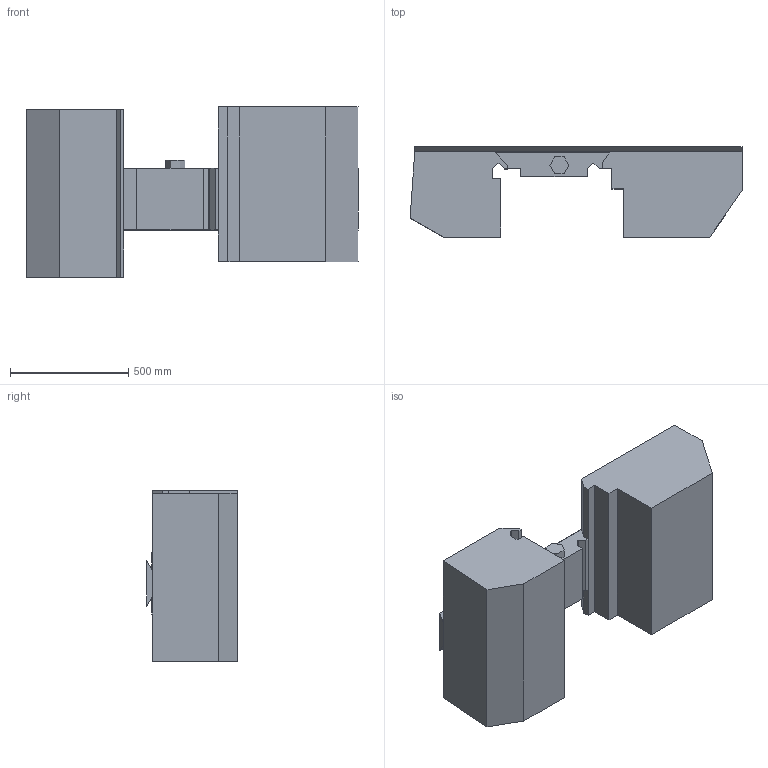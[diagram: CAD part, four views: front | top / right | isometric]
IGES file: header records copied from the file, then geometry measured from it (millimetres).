
Start section: This line is the first line of the start section. You can replace these lines and/or  add as many as you want.
Global section: file name: /dsk_ncs/ncsimul/support/trans/_bcd/z.igs; native system: COMPUTERVISION CADDS5 REV 5.3.2 GRAPHIC SYSTEM; preprocessor: CV Translators IGES/VDA Revision 2.1, STEP Revision 1.2; author: Author; organization: Organization; date: 970731.110829; units: millimetre
Bounding box: 1403 x 383 x 720 mm (x, y, z)
Topology: 0 solids, 0 shells, 58 faces, 316 edges, 316 vertices
Faces by surface type: bspline 57, plane 1
